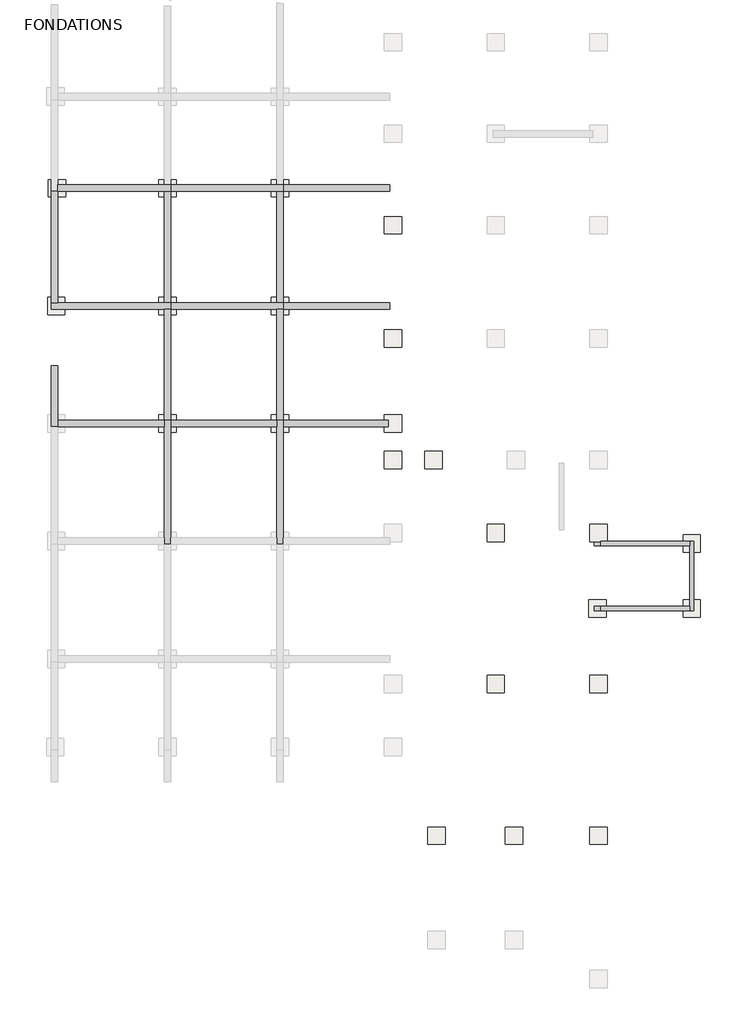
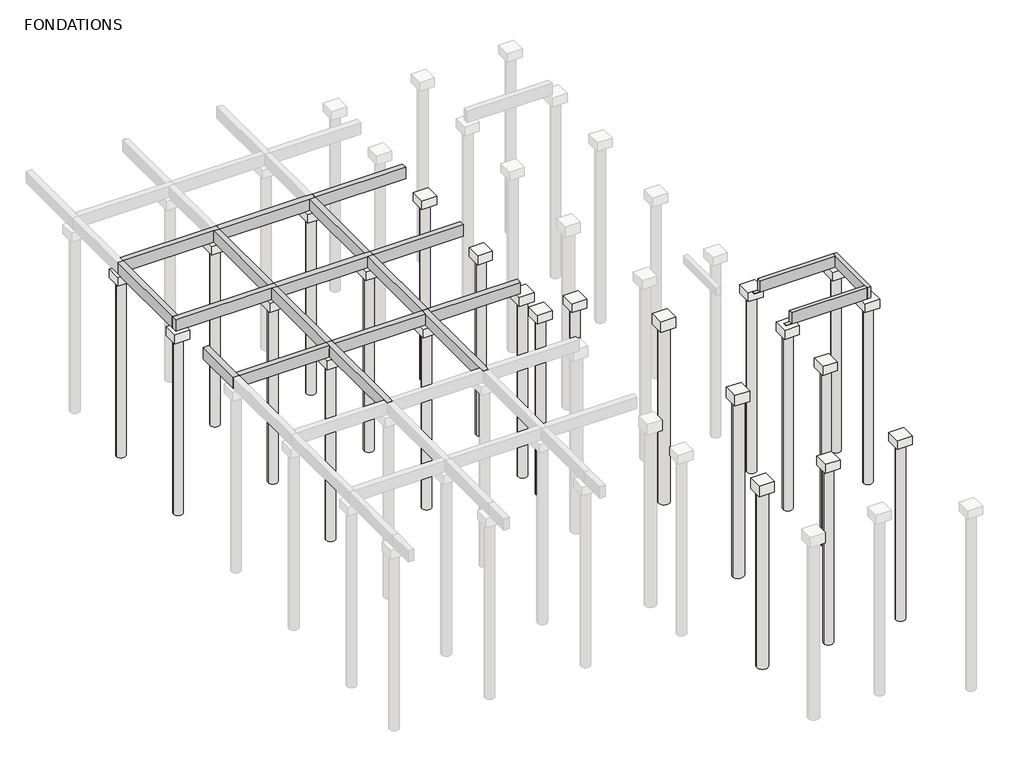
# One storey, part 2 of 3: 46 slabs, 20 beams.
"""IFC4 building model written with IfcOpenShell, lengths in millimetres."""

from ifc_helpers import new_model, si_unit, point, frame, frame_2d, origin, place, context, project, spatial, polyline, circle_curve, trimmed, segment, composite_curve, outline, extrude, faceted_brep, element, save

model = new_model("IFC4")

# Units and contexts
model_context = context("Model", 3, world=origin())
ifc_project = project(units=[si_unit("LENGTHUNIT", "METRE", prefix="MILLI")], contexts=[model_context])

# Site, building, storey
site = spatial("IfcSite", under=ifc_project)
building = spatial("IfcBuilding", under=site)
storey = spatial("IfcBuildingStorey", under=building, Name="FONDATIONS", Elevation=-650.0)

# Beams
placement = place(None, origin())
element("IfcBeam", 1, ObjectType="Longrine : 20x65h", at=placement, inside=storey, context=model_context, shape_type="Brep", body=[
    faceted_brep([(44059.0482776, 43362.7519336, -670.0), (44059.0482776, 43362.7519336, -20.0), (44059.0482776, 43363.0600761, -20.0), (44059.0482776, 43562.7519336, -20.0), (44059.0482776, 46342.7522291, -20.0), (44059.0482776, 46542.4600761, -20.0), (44059.0482776, 46542.7522291, -20.0), (44059.0482776, 46542.7522291, -670.0), (44059.0482776, 46342.7522291, -670.0), (44059.0482776, 43562.7519336, -670.0), (44259.0482776, 43362.7519336, -670.0), (44259.0482776, 46542.7522291, -670.0), (44259.0482776, 43362.7519336, -20.0), (44259.0482776, 46542.7522291, -20.0), (44259.0482776, 46542.4600761, -20.0), (44259.0482776, 43363.0600761, -20.0)], [[[0, 1, 2, 3, 4, 5, 6, 7, 8, 9]], [[10, 0, 9, 8, 7, 11]], [[12, 10, 11, 13, 14, 15]], [[1, 12, 15, 14, 13, 6, 5, 4, 3, 2]], [[7, 6, 13, 11]], [[1, 0, 10, 12]]]),
])
element("IfcBeam", 2, ObjectType="Longrine : 20x65h", at=placement, inside=storey, context=model_context, shape_type="Brep", body=[
    faceted_brep([(39989.0482781, 46342.7522291, -20.0), (39989.0482781, 46342.7522291, -220.0), (39989.0482781, 46342.7522291, -650.0), (39689.0482781, 46342.7522291, -650.0), (39689.0482781, 46342.7522291, -670.0), (44059.0482776, 46342.7522291, -670.0), (44059.0482776, 46342.7522291, -220.0), (44059.0482776, 46342.7522291, -20.0), (39689.0482781, 46529.8020813, -670.0), (40289.0482781, 46529.8020813, -670.0), (40289.0482781, 46542.7522291, -670.0), (44059.0482776, 46542.7522291, -670.0), (40289.0482781, 46542.7522291, -650.0), (39989.0482781, 46542.7522291, -650.0), (39989.0482781, 46542.7522291, -20.0), (44059.0482776, 46542.7522291, -20.0), (39989.0482781, 46529.8020813, -650.0), (39689.0482781, 46529.8020813, -650.0), (40289.0482781, 46529.8020813, -650.0)], [[[0, 1, 2, 3, 4, 5, 6, 7]], [[8, 9, 10, 11, 5, 4]], [[10, 12, 13, 14, 15, 11]], [[14, 0, 7, 15]], [[2, 1, 0, 14, 13, 16]], [[3, 2, 16, 17]], [[12, 18, 16, 13]], [[16, 18, 9, 8, 17]], [[18, 12, 10, 9]], [[4, 3, 17, 8]], [[7, 6, 5, 11, 15]]]),
])
element("IfcBeam", 3, ObjectType="Longrine : 20x65h", at=placement, inside=storey, context=model_context, shape_type="Brep", body=[
    faceted_brep([(39989.0482781, 43362.7519336, -20.0), (39989.0482781, 43362.7519336, -650.0), (39689.0482781, 43362.7519336, -650.0), (39689.0482781, 43362.7519336, -670.0), (44059.0482776, 43362.7519336, -670.0), (44059.0482776, 43362.7519336, -20.0), (39689.0482781, 43562.7519336, -670.0), (44059.0482776, 43562.7519336, -670.0), (39989.0482781, 43562.7519336, -650.0), (39989.0482781, 43562.7519336, -220.0), (39989.0482781, 43562.7519336, -20.0), (44059.0482776, 43562.7519336, -20.0), (44059.0482776, 43562.7519336, -220.0), (39689.0482781, 43562.7519336, -650.0)], [[[0, 1, 2, 3, 4, 5]], [[3, 6, 7, 4]], [[8, 9, 10, 11, 12, 7, 6, 13]], [[10, 0, 5, 11]], [[8, 1, 0, 10, 9]], [[1, 8, 13, 2]], [[6, 3, 2, 13]], [[5, 4, 7, 12, 11]]]),
])
element("IfcBeam", 4, ObjectType="Longrine : 30x65h", at=placement, inside=storey, context=model_context, shape_type="Brep", body=[
    faceted_brep([(14769.048278, 54609.7486113, 0.0), (14769.048278, 54609.7486113, -650.0), (14769.048278, 51799.8020807, -650.0), (14769.048278, 51799.8020807, 0.0), (15069.048278, 54609.7486113, -650.0), (15069.048278, 52099.8020807, -650.0), (15069.048278, 51799.8020807, -650.0), (15069.048278, 54609.7486113, 0.0), (15069.048278, 52099.8020807, 0.0), (15069.048278, 51799.8020807, 0.0)], [[[0, 1, 2, 3]], [[1, 4, 5, 6, 2]], [[4, 7, 8, 9, 6, 5]], [[7, 0, 3, 9, 8]], [[0, 7, 4, 1]], [[3, 2, 6, 9]]]),
])
element("IfcBeam", 5, ObjectType="Longrine : 30x65h", at=placement, inside=storey, context=model_context, shape_type="Brep", body=[
    faceted_brep([(19942.0406356, 46399.8020807, -650.0), (19942.0406356, 46399.8020807, 0.0), (19942.0406356, 46699.8020807, 0.0), (19942.0406356, 51799.8020807, 0.0), (19942.0406356, 52099.8020807, 0.0), (19942.0406356, 52099.8020807, -650.0), (19942.0406356, 51799.8020807, -650.0), (19942.0406356, 51797.4091723, -650.0), (19942.0406356, 46699.8020807, -650.0), (20242.0406356, 46399.8020807, -650.0), (20241.5466704, 52099.8020807, -650.0), (20242.0406356, 52099.8020807, -650.0), (20242.0406356, 51799.8020807, -650.0), (20242.0406356, 46699.8020807, -650.0), (20242.0406356, 46399.8020807, 0.0), (20242.0406356, 52099.8020807, 0.0), (20242.0406356, 51799.8020807, 0.0), (20242.0406356, 46699.8020807, 0.0), (20241.5466704, 52099.8020807, 0.0)], [[[0, 1, 2, 3, 4, 5, 6, 7, 8]], [[9, 0, 8, 7, 6, 5, 10, 11, 12, 13]], [[14, 9, 13, 12, 11, 15, 16, 17]], [[1, 14, 17, 16, 15, 18, 4, 3, 2]], [[5, 4, 18, 15, 11, 10]], [[1, 0, 9, 14]]]),
])
element("IfcBeam", 6, ObjectType="Longrine : 30x65h", at=placement, inside=storey, context=model_context, shape_type="Brep", body=[
    faceted_brep([(25116.0406356, 46399.8020807, -650.0), (25116.0406356, 46399.8020807, 0.0), (25116.0406356, 46699.8020807, 0.0), (25116.0406356, 51799.8020807, 0.0), (25116.0406356, 52099.8020807, 0.0), (25116.0406356, 52099.8020807, -650.0), (25116.0406356, 51799.8020807, -650.0), (25116.0406356, 46699.8020807, -650.0), (25416.0406356, 46399.8020807, -650.0), (25416.0406356, 52099.8020807, -650.0), (25416.0406356, 51799.8020807, -650.0), (25416.0406356, 46699.8020807, -650.0), (25416.0406356, 46399.8020807, 0.0), (25416.0406356, 52099.8020807, 0.0), (25416.0406356, 51799.8020807, 0.0), (25416.0406356, 46699.8020807, 0.0)], [[[0, 1, 2, 3, 4, 5, 6, 7]], [[8, 0, 7, 6, 5, 9, 10, 11]], [[12, 8, 11, 10, 9, 13, 14, 15]], [[1, 12, 15, 14, 13, 4, 3, 2]], [[5, 4, 13, 9]], [[1, 0, 8, 12]]]),
])
element("IfcBeam", 7, ObjectType="Longrine : 30x65h", at=placement, inside=storey, context=model_context, shape_type="Brep", body=[
    faceted_brep([(20241.5466704, 62602.7522291, -650.0), (20241.5466704, 62602.7522291, 0.0), (19941.5466704, 62602.7522291, 0.0), (15069.048278, 62602.7522291, 0.0), (15069.048278, 62602.7522291, -200.0), (15069.048278, 62602.7522291, -650.0), (19941.5466704, 62602.7522291, -650.0), (20241.5466704, 62902.7522291, -650.0), (15069.048278, 62902.7522291, -650.0), (19942.0406356, 62902.7522291, -650.0), (20241.5466704, 62902.7522291, 0.0), (20241.5466704, 62902.7522291, -200.0), (15069.048278, 62902.7522291, -200.0), (15069.048278, 62902.7522291, 0.0), (19942.0406356, 62902.7522291, 0.0)], [[[0, 1, 2, 3, 4, 5, 6]], [[7, 0, 6, 5, 8, 9]], [[10, 11, 7, 9, 8, 12, 13, 14]], [[1, 10, 14, 13, 3, 2]], [[1, 0, 7, 11, 10]], [[5, 4, 3, 13, 12, 8]]]),
])
element("IfcBeam", 8, ObjectType="Longrine : 30x65h", at=placement, inside=storey, context=model_context, shape_type="Brep", body=[
    faceted_brep([(25416.0406356, 62602.7522291, -650.0), (25416.0406356, 62602.7522291, 0.0), (25116.0406356, 62602.7522291, 0.0), (20241.5466704, 62602.7522291, 0.0), (20241.5466704, 62602.7522291, -200.0), (20241.5466704, 62602.7522291, -650.0), (25116.0406356, 62602.7522291, -650.0), (25416.0406356, 62902.7522291, -650.0), (20241.5466704, 62902.7522291, -650.0), (20242.0406356, 62902.7522291, -650.0), (25116.0406356, 62902.7522291, -650.0), (25416.0406356, 62902.7522291, 0.0), (20241.5466704, 62902.7522291, -200.0), (20241.5466704, 62902.7522291, 0.0), (25116.0406356, 62902.7522291, 0.0)], [[[0, 1, 2, 3, 4, 5, 6]], [[7, 0, 6, 5, 8, 9, 10]], [[11, 7, 10, 9, 8, 12, 13, 14]], [[1, 11, 14, 13, 3, 2]], [[5, 4, 3, 13, 12, 8]], [[1, 0, 7, 11]]]),
])
element("IfcBeam", 9, ObjectType="Longrine : 30x65h", at=placement, inside=storey, context=model_context, shape_type="Brep", body=[
    faceted_brep([(30289.0482779, 62602.7522291, -650.0), (30289.0482779, 62602.7522291, -200.0), (30289.0482779, 62602.7522291, 0.0), (25416.0406356, 62602.7522291, 0.0), (25416.0406356, 62602.7522291, -200.0), (25416.0406356, 62602.7522291, -650.0), (30289.0482779, 62902.7522291, -650.0), (25416.0406356, 62902.7522291, -650.0), (30289.0482779, 62902.7522291, 0.0), (30289.0482779, 62902.7522291, -200.0), (25416.0406356, 62902.7522291, -200.0), (25416.0406356, 62902.7522291, 0.0)], [[[0, 1, 2, 3, 4, 5]], [[6, 0, 5, 7]], [[8, 9, 6, 7, 10, 11]], [[2, 8, 11, 3]], [[2, 1, 0, 6, 9, 8]], [[5, 4, 3, 11, 10, 7]]]),
])
element("IfcBeam", 10, ObjectType="Longrine : 30x65h", at=placement, inside=storey, context=model_context, shape_type="Brep", body=[
    faceted_brep([(20241.5466704, 57199.8020807, -650.0), (20241.5466704, 57199.8020807, 0.0), (19941.5466704, 57199.8020807, 0.0), (15069.048278, 57199.8020807, 0.0), (14769.048278, 57199.8020807, 0.0), (14769.048278, 57199.8020807, -650.0), (15069.048278, 57199.8020807, -650.0), (19941.5466704, 57199.8020807, -650.0), (20241.5466704, 57499.8020807, -650.0), (14769.048278, 57499.8020807, -650.0), (15069.048278, 57499.8020807, -650.0), (19941.5466704, 57499.8020807, -650.0), (20241.5466704, 57499.8020807, 0.0), (14769.048278, 57499.8020807, 0.0), (15069.048278, 57499.8020807, 0.0), (19941.5466704, 57499.8020807, 0.0)], [[[0, 1, 2, 3, 4, 5, 6, 7]], [[8, 0, 7, 6, 5, 9, 10, 11]], [[12, 8, 11, 10, 9, 13, 14, 15]], [[1, 12, 15, 14, 13, 4, 3, 2]], [[1, 0, 8, 12]], [[5, 4, 13, 9]]]),
])
element("IfcBeam", 11, ObjectType="Longrine : 30x65h", at=placement, inside=storey, context=model_context, shape_type="Brep", body=[
    faceted_brep([(25416.0406356, 57199.8020807, -650.0), (25416.0406356, 57199.8020807, 0.0), (25116.0406356, 57199.8020807, 0.0), (20241.5466704, 57199.8020807, 0.0), (20241.5466704, 57199.8020807, -200.0), (20241.5466704, 57199.8020807, -650.0), (25116.0406356, 57199.8020807, -650.0), (25416.0406356, 57499.8020807, -650.0), (20241.5466704, 57499.8020807, -650.0), (25116.0406356, 57499.8020807, -650.0), (25416.0406356, 57499.8020807, 0.0), (20241.5466704, 57499.8020807, -200.0), (20241.5466704, 57499.8020807, 0.0), (25116.0406356, 57499.8020807, 0.0)], [[[0, 1, 2, 3, 4, 5, 6]], [[7, 0, 6, 5, 8, 9]], [[10, 7, 9, 8, 11, 12, 13]], [[1, 10, 13, 12, 3, 2]], [[5, 4, 3, 12, 11, 8]], [[1, 0, 7, 10]]]),
])
element("IfcBeam", 12, ObjectType="Longrine : 30x65h", at=placement, inside=storey, context=model_context, shape_type="Brep", body=[
    faceted_brep([(30289.0482779, 57199.8020807, -650.0), (30289.0482779, 57199.8020807, -200.0), (30289.0482779, 57199.8020807, 0.0), (25416.0406356, 57199.8020807, 0.0), (25416.0406356, 57199.8020807, -200.0), (25416.0406356, 57199.8020807, -650.0), (30289.0482779, 57499.8020807, -650.0), (25416.0406356, 57499.8020807, -650.0), (30289.0482779, 57499.8020807, 0.0), (30289.0482779, 57499.8020807, -200.0), (25416.0406356, 57499.8020807, -200.0), (25416.0406356, 57499.8020807, 0.0)], [[[0, 1, 2, 3, 4, 5]], [[6, 0, 5, 7]], [[8, 9, 6, 7, 10, 11]], [[2, 8, 11, 3]], [[2, 1, 0, 6, 9, 8]], [[5, 4, 3, 11, 10, 7]]]),
])
element("IfcBeam", 13, ObjectType="Longrine : 30x65h", at=placement, inside=storey, context=model_context, shape_type="Brep", body=[
    faceted_brep([(15069.048278, 51799.8020807, 0.0), (15069.048278, 51799.8020807, -200.0), (15069.048278, 51799.8020807, -650.0), (19941.5466704, 51799.8020807, -650.0), (19942.0406356, 51799.8020807, -650.0), (19942.0406356, 51799.8020807, -200.0), (19942.0406356, 51799.8020807, 0.0), (15069.048278, 52099.8020807, -650.0), (19941.5466704, 52099.8020807, -650.0), (19942.0406356, 52099.8020807, -650.0), (15069.048278, 52099.8020807, -200.0), (15069.048278, 52099.8020807, 0.0), (19941.5466704, 52099.8020807, 0.0), (19942.0406356, 52099.8020807, 0.0)], [[[0, 1, 2, 3, 4, 5, 6]], [[2, 7, 8, 9, 4, 3]], [[7, 10, 11, 12, 13, 9, 8]], [[11, 0, 6, 13, 12]], [[2, 1, 0, 11, 10, 7]], [[6, 5, 4, 9, 13]]]),
])
element("IfcBeam", 14, ObjectType="Longrine : 30x65h", at=placement, inside=storey, context=model_context, shape_type="Brep", body=[
    faceted_brep([(30239.0482779, 51799.8020807, -650.0), (30239.0482779, 51799.8020807, -200.0), (30239.0482779, 51799.8020807, 0.0), (25416.0406356, 51799.8020807, 0.0), (25416.0406356, 51799.8020807, -200.0), (25416.0406356, 51799.8020807, -650.0), (30239.0482779, 52099.8020807, -650.0), (25416.0406356, 52099.8020807, -650.0), (30239.0482779, 52099.8020807, 0.0), (30239.0482779, 52099.8020807, -200.0), (25416.0406356, 52099.8020807, -200.0), (25416.0406356, 52099.8020807, 0.0)], [[[0, 1, 2, 3, 4, 5]], [[6, 0, 5, 7]], [[8, 9, 6, 7, 10, 11]], [[2, 8, 11, 3]], [[2, 1, 0, 6, 9, 8]], [[5, 4, 3, 11, 10, 7]]]),
])
element("IfcBeam", 15, ObjectType="Longrine : 30x65h", at=placement, inside=storey, context=model_context, shape_type="Brep", body=[
    faceted_brep([(19941.5466704, 62602.7522291, 0.0), (19941.5466704, 62602.7522291, -200.0), (19941.5466704, 62602.7522291, -650.0), (19941.5466704, 57499.8020807, -650.0), (19941.5466704, 57499.8020807, -200.0), (19941.5466704, 57499.8020807, 0.0), (20241.5466704, 62602.7522291, -650.0), (20241.5466704, 57499.8020807, -650.0), (20241.5466704, 62602.7522291, -200.0), (20241.5466704, 62602.7522291, 0.0), (20241.5466704, 57499.8020807, 0.0), (20241.5466704, 57499.8020807, -200.0)], [[[0, 1, 2, 3, 4, 5]], [[2, 6, 7, 3]], [[6, 8, 9, 10, 11, 7]], [[9, 0, 5, 10]], [[2, 1, 0, 9, 8, 6]], [[5, 4, 3, 7, 11, 10]]]),
])
element("IfcBeam", 16, ObjectType="Longrine : 30x65h", at=placement, inside=storey, context=model_context, shape_type="Brep", body=[
    faceted_brep([(19941.5466704, 51799.8020807, -650.0), (19941.5466704, 51797.4091723, -650.0), (19941.5466704, 51797.4091723, -200.0), (19941.5466704, 51799.8020807, -200.0), (19942.0406356, 51799.8020807, -650.0), (19942.0406356, 51797.4091723, -650.0), (19942.0406356, 51797.4091723, -200.0), (19942.0406356, 51799.8020807, -200.0)], [[[0, 1, 2, 3]], [[0, 4, 5, 1]], [[1, 5, 6, 2]], [[5, 4, 7, 6]], [[4, 0, 3, 7]], [[3, 2, 6, 7]]]),
    faceted_brep([(20241.5466704, 57199.8020807, -650.0), (20241.5466704, 57199.8020807, -200.0), (20241.5466704, 57199.8020807, 0.0), (20241.5466704, 52099.8020807, 0.0), (20241.5466704, 52099.8020807, -200.0), (20241.5466704, 52099.8020807, -650.0), (19941.5466704, 57199.8020807, -650.0), (19941.5466704, 57199.8020807, -200.0), (19941.5466704, 57199.8020807, 0.0), (19942.0406356, 52099.8020807, 0.0), (19941.5466704, 52099.8020807, 0.0), (19941.5466704, 52099.8020807, -200.0), (19941.5466704, 52099.8020807, -650.0), (19942.0406356, 52099.8020807, -650.0)], [[[0, 1, 2, 3, 4, 5]], [[6, 7, 8, 2, 1, 0]], [[5, 4, 3, 9, 10, 11, 12, 13]], [[8, 7, 6, 12, 11, 10]], [[6, 0, 5, 13, 12]], [[2, 8, 10, 9, 3]]]),
])
element("IfcBeam", 17, ObjectType="Longrine : 30x65h", at=placement, inside=storey, context=model_context, shape_type="Brep", body=[
    faceted_brep([(25116.0406356, 62602.7522291, 0.0), (25116.0406356, 62602.7522291, -200.0), (25116.0406356, 62602.7522291, -650.0), (25116.0406356, 57499.8020807, -650.0), (25116.0406356, 57499.8020807, -200.0), (25116.0406356, 57499.8020807, 0.0), (25416.0406356, 62602.7522291, -650.0), (25416.0406356, 57499.8020807, -650.0), (25416.0406356, 62602.7522291, -200.0), (25416.0406356, 62602.7522291, 0.0), (25416.0406356, 57499.8020807, 0.0), (25416.0406356, 57499.8020807, -200.0)], [[[0, 1, 2, 3, 4, 5]], [[2, 6, 7, 3]], [[6, 8, 9, 10, 11, 7]], [[9, 0, 5, 10]], [[2, 1, 0, 9, 8, 6]], [[5, 4, 3, 7, 11, 10]]]),
])
element("IfcBeam", 18, ObjectType="Longrine : 30x65h", at=placement, inside=storey, context=model_context, shape_type="Brep", body=[
    faceted_brep([(25116.0406356, 57199.8020807, 0.0), (25116.0406356, 57199.8020807, -200.0), (25116.0406356, 57199.8020807, -650.0), (25116.0406356, 52099.8020807, -650.0), (25116.0406356, 52099.8020807, -200.0), (25116.0406356, 52099.8020807, 0.0), (25416.0406356, 57199.8020807, -650.0), (25416.0406356, 52099.8020807, -650.0), (25416.0406356, 57199.8020807, -200.0), (25416.0406356, 57199.8020807, 0.0), (25416.0406356, 52099.8020807, 0.0), (25416.0406356, 52099.8020807, -200.0)], [[[0, 1, 2, 3, 4, 5]], [[2, 6, 7, 3]], [[6, 8, 9, 10, 11, 7]], [[9, 0, 5, 10]], [[6, 2, 1, 0, 9, 8]], [[5, 4, 3, 7, 11, 10]]]),
])
element("IfcBeam", 19, ObjectType="Longrine : 30x65h", at=placement, inside=storey, context=model_context, shape_type="Brep", body=[
    faceted_brep([(15069.048278, 62602.7522291, -650.0), (15069.048278, 62602.7522291, -200.0), (15069.048278, 62602.7522291, 0.0), (15069.048278, 57499.8020807, 0.0), (15069.048278, 57499.8020807, -200.0), (15069.048278, 57499.8020807, -650.0), (14769.048278, 62602.7522291, -650.0), (14769.048278, 57499.8020807, -650.0), (14769.048278, 62602.7522291, 0.0), (14769.048278, 57499.8020807, 0.0)], [[[0, 1, 2, 3, 4, 5]], [[6, 0, 5, 7]], [[8, 6, 7, 9]], [[2, 8, 9, 3]], [[2, 1, 0, 6, 8]], [[5, 4, 3, 9, 7]]]),
])
element("IfcBeam", 20, ObjectType="Longrine : 30x65h", at=placement, inside=storey, context=model_context, shape_type="Brep", body=[
    faceted_brep([(20242.0406356, 51799.8020807, 0.0), (20242.0406356, 51799.8020807, -200.0), (20242.0406356, 51799.8020807, -650.0), (25116.0406356, 51799.8020807, -650.0), (25116.0406356, 51799.8020807, -200.0), (25116.0406356, 51799.8020807, 0.0), (20242.0406356, 52099.8020807, 0.0), (20242.0406356, 52099.8020807, -650.0), (25116.0406356, 52099.8020807, -650.0), (25116.0406356, 52099.8020807, 0.0), (25116.0406356, 52099.8020807, -200.0)], [[[0, 1, 2, 3, 4, 5]], [[2, 1, 0, 6, 7]], [[2, 7, 8, 3]], [[7, 6, 9, 10, 8]], [[6, 0, 5, 9]], [[5, 4, 3, 8, 10, 9]]]),
])

# Slabs
element("IfcSlab", 21, ObjectType="M_Pieu-Béton : Diamètre de 50 cm", at=placement, inside=storey, context=model_context, shape_type="SweptSolid", body=[
    extrude(outline(composite_curve([segment(trimmed(circle_curve(frame_2d((30439.0482779, 61049.8020814)), 250.0), [point((30189.0482779, 61049.8020814))], [point((30689.0482779, 61049.8020814))], False, "CARTESIAN"), True, "CONTINUOUS"), segment(trimmed(circle_curve(frame_2d((30439.0482779, 61049.8020814)), 250.0), [point((30689.0482779, 61049.8020814))], [point((30189.0482779, 61049.8020814))], False, "CARTESIAN"), True, "CONTINUOUS")], self_intersect=False)), frame((0.0, 0.0, -11150.0), z_axis=(0.0, 0.0, 1.0), x_axis=(1.0, 0.0, 0.0)), (0.0, 0.0, 1.0), 10000.0),
])
element("IfcSlab", 22, ObjectType="M_Pieu-Béton : Diamètre de 50 cm", at=placement, inside=storey, context=model_context, shape_type="SweptSolid", body=[
    extrude(outline(composite_curve([segment(trimmed(circle_curve(frame_2d((30439.0482779, 55849.8020814)), 250.0), [point((30189.0482779, 55849.8020814))], [point((30689.0482779, 55849.8020814))], False, "CARTESIAN"), True, "CONTINUOUS"), segment(trimmed(circle_curve(frame_2d((30439.0482779, 55849.8020814)), 250.0), [point((30689.0482779, 55849.8020814))], [point((30189.0482779, 55849.8020814))], False, "CARTESIAN"), True, "CONTINUOUS")], self_intersect=False)), frame((0.0, 0.0, -11150.0), z_axis=(0.0, 0.0, 1.0), x_axis=(1.0, 0.0, 0.0)), (0.0, 0.0, 1.0), 10000.0),
])
element("IfcSlab", 23, ObjectType="M_Pieu-Béton : Diamètre de 60 cm", at=placement, inside=storey, context=model_context, shape_type="SweptSolid", body=[
    extrude(outline(composite_curve([segment(trimmed(circle_curve(frame_2d((35164.048278, 46929.8020813)), 300.0), [point((34864.048278, 46929.8020813))], [point((35464.048278, 46929.8020813))], False, "CARTESIAN"), True, "CONTINUOUS"), segment(trimmed(circle_curve(frame_2d((35164.048278, 46929.8020813)), 300.0), [point((35464.048278, 46929.8020813))], [point((34864.048278, 46929.8020813))], False, "CARTESIAN"), True, "CONTINUOUS")], self_intersect=False)), frame((0.0, 0.0, -11250.0), z_axis=(0.0, 0.0, 1.0), x_axis=(1.0, 0.0, 0.0)), (0.0, 0.0, 1.0), 10000.0),
])
element("IfcSlab", 24, ObjectType="M_Pieu-Béton : Diamètre de 50 cm", at=placement, inside=storey, context=model_context, shape_type="SweptSolid", body=[
    extrude(outline(composite_curve([segment(trimmed(circle_curve(frame_2d((39889.0482781, 46929.8020813)), 250.0), [point((39639.0482781, 46929.8020813))], [point((40139.0482781, 46929.8020813))], False, "CARTESIAN"), True, "CONTINUOUS"), segment(trimmed(circle_curve(frame_2d((39889.0482781, 46929.8020813)), 250.0), [point((40139.0482781, 46929.8020813))], [point((39639.0482781, 46929.8020813))], False, "CARTESIAN"), True, "CONTINUOUS")], self_intersect=False)), frame((0.0, 0.0, -11150.0), z_axis=(0.0, 0.0, 1.0), x_axis=(1.0, 0.0, 0.0)), (0.0, 0.0, 1.0), 10000.0),
])
element("IfcSlab", 25, ObjectType="M_Pieu-Béton : Diamètre de 50 cm", at=placement, inside=storey, context=model_context, shape_type="SweptSolid", body=[
    extrude(outline(composite_curve([segment(trimmed(circle_curve(frame_2d((39889.0482781, 39999.8020813)), 250.0), [point((39639.0482781, 39999.8020813))], [point((40139.0482781, 39999.8020813))], False, "CARTESIAN"), True, "CONTINUOUS"), segment(trimmed(circle_curve(frame_2d((39889.0482781, 39999.8020813)), 250.0), [point((40139.0482781, 39999.8020813))], [point((39639.0482781, 39999.8020813))], False, "CARTESIAN"), True, "CONTINUOUS")], self_intersect=False)), frame((0.0, 0.0, -11150.0), z_axis=(0.0, 0.0, 1.0), x_axis=(1.0, 0.0, 0.0)), (0.0, 0.0, 1.0), 10000.0),
])
element("IfcSlab", 26, ObjectType="M_Pieu-Béton : Diamètre de 50 cm", at=placement, inside=storey, context=model_context, shape_type="SweptSolid", body=[
    extrude(outline(composite_curve([segment(trimmed(circle_curve(frame_2d((20092.0406356, 51949.8020807)), 250.0), [point((19842.0406356, 51949.8020807))], [point((20342.0406356, 51949.8020807))], False, "CARTESIAN"), True, "CONTINUOUS"), segment(trimmed(circle_curve(frame_2d((20092.0406356, 51949.8020807)), 250.0), [point((20342.0406356, 51949.8020807))], [point((19842.0406356, 51949.8020807))], False, "CARTESIAN"), True, "CONTINUOUS")], self_intersect=False)), frame((0.0, 0.0, -11150.0), z_axis=(0.0, 0.0, 1.0), x_axis=(1.0, 0.0, 0.0)), (0.0, 0.0, 1.0), 10000.0),
])
element("IfcSlab", 27, ObjectType="M_Pieu-Béton : Diamètre de 50 cm", at=placement, inside=storey, context=model_context, shape_type="SweptSolid", body=[
    extrude(outline(composite_curve([segment(trimmed(circle_curve(frame_2d((25266.0406356, 51949.8020807)), 250.0), [point((25016.0406356, 51949.8020807))], [point((25516.0406356, 51949.8020807))], False, "CARTESIAN"), True, "CONTINUOUS"), segment(trimmed(circle_curve(frame_2d((25266.0406356, 51949.8020807)), 250.0), [point((25516.0406356, 51949.8020807))], [point((25016.0406356, 51949.8020807))], False, "CARTESIAN"), True, "CONTINUOUS")], self_intersect=False)), frame((0.0, 0.0, -11150.0), z_axis=(0.0, 0.0, 1.0), x_axis=(1.0, 0.0, 0.0)), (0.0, 0.0, 1.0), 10000.0),
])
element("IfcSlab", 28, ObjectType="M_Pieu-Béton : Diamètre de 50 cm", at=placement, inside=storey, context=model_context, shape_type="SweptSolid", body=[
    extrude(outline(composite_curve([segment(trimmed(circle_curve(frame_2d((20092.0406356, 57349.8020807)), 250.0), [point((19842.0406356, 57349.8020807))], [point((20342.0406356, 57349.8020807))], False, "CARTESIAN"), True, "CONTINUOUS"), segment(trimmed(circle_curve(frame_2d((20092.0406356, 57349.8020807)), 250.0), [point((20342.0406356, 57349.8020807))], [point((19842.0406356, 57349.8020807))], False, "CARTESIAN"), True, "CONTINUOUS")], self_intersect=False)), frame((0.0, 0.0, -11150.0), z_axis=(0.0, 0.0, 1.0), x_axis=(1.0, 0.0, 0.0)), (0.0, 0.0, 1.0), 10000.0),
])
element("IfcSlab", 29, ObjectType="M_Pieu-Béton : Diamètre de 50 cm", at=placement, inside=storey, context=model_context, shape_type="SweptSolid", body=[
    extrude(outline(composite_curve([segment(trimmed(circle_curve(frame_2d((25266.0406356, 57349.8020807)), 250.0), [point((25016.0406356, 57349.8020807))], [point((25516.0406356, 57349.8020807))], False, "CARTESIAN"), True, "CONTINUOUS"), segment(trimmed(circle_curve(frame_2d((25266.0406356, 57349.8020807)), 250.0), [point((25516.0406356, 57349.8020807))], [point((25016.0406356, 57349.8020807))], False, "CARTESIAN"), True, "CONTINUOUS")], self_intersect=False)), frame((0.0, 0.0, -11150.0), z_axis=(0.0, 0.0, 1.0), x_axis=(1.0, 0.0, 0.0)), (0.0, 0.0, 1.0), 10000.0),
])
element("IfcSlab", 30, ObjectType="M_Pieu-Béton : Diamètre de 50 cm", at=placement, inside=storey, context=model_context, shape_type="SweptSolid", body=[
    extrude(outline(composite_curve([segment(trimmed(circle_curve(frame_2d((44159.0482776, 43462.7519336)), 250.0), [point((43909.0482776, 43462.7519336))], [point((44409.0482776, 43462.7519336))], False, "CARTESIAN"), True, "CONTINUOUS"), segment(trimmed(circle_curve(frame_2d((44159.0482776, 43462.7519336)), 250.0), [point((44409.0482776, 43462.7519336))], [point((43909.0482776, 43462.7519336))], False, "CARTESIAN"), True, "CONTINUOUS")], self_intersect=False)), frame((0.0, 0.0, -11170.0), z_axis=(0.0, 0.0, 1.0), x_axis=(1.0, 0.0, 0.0)), (0.0, 0.0, 1.0), 10000.0),
])
element("IfcSlab", 31, ObjectType="M_Pieu-Béton : Diamètre de 50 cm", at=placement, inside=storey, context=model_context, shape_type="SweptSolid", body=[
    extrude(outline(composite_curve([segment(trimmed(circle_curve(frame_2d((32299.048278, 50279.8020815)), 250.0), [point((32049.048278, 50279.8020815))], [point((32549.048278, 50279.8020815))], False, "CARTESIAN"), True, "CONTINUOUS"), segment(trimmed(circle_curve(frame_2d((32299.048278, 50279.8020815)), 250.0), [point((32549.048278, 50279.8020815))], [point((32049.048278, 50279.8020815))], False, "CARTESIAN"), True, "CONTINUOUS")], self_intersect=False)), frame((0.0, 0.0, -11150.0), z_axis=(0.0, 0.0, 1.0), x_axis=(1.0, 0.0, 0.0)), (0.0, 0.0, 1.0), 10000.0),
])
element("IfcSlab", 32, ObjectType="M_Pieu-Béton : Diamètre de 50 cm", at=placement, inside=storey, context=model_context, shape_type="SweptSolid", body=[
    extrude(outline(composite_curve([segment(trimmed(circle_curve(frame_2d((30439.0482779, 50279.8020815)), 250.0), [point((30189.0482779, 50279.8020815))], [point((30689.0482779, 50279.8020815))], False, "CARTESIAN"), True, "CONTINUOUS"), segment(trimmed(circle_curve(frame_2d((30439.0482779, 50279.8020815)), 250.0), [point((30689.0482779, 50279.8020815))], [point((30189.0482779, 50279.8020815))], False, "CARTESIAN"), True, "CONTINUOUS")], self_intersect=False)), frame((0.0, 0.0, -11150.0), z_axis=(0.0, 0.0, 1.0), x_axis=(1.0, 0.0, 0.0)), (0.0, 0.0, 1.0), 10000.0),
])
element("IfcSlab", 33, ObjectType="M_Pieu-Béton : Diamètre de 50 cm", at=placement, inside=storey, context=model_context, shape_type="SweptSolid", body=[
    extrude(outline(composite_curve([segment(trimmed(circle_curve(frame_2d((30439.0482779, 51949.8020807)), 250.0), [point((30189.0482779, 51949.8020807))], [point((30689.0482779, 51949.8020807))], False, "CARTESIAN"), True, "CONTINUOUS"), segment(trimmed(circle_curve(frame_2d((30439.0482779, 51949.8020807)), 250.0), [point((30689.0482779, 51949.8020807))], [point((30189.0482779, 51949.8020807))], False, "CARTESIAN"), True, "CONTINUOUS")], self_intersect=False)), frame((0.0, 0.0, -11150.0), z_axis=(0.0, 0.0, 1.0), x_axis=(1.0, 0.0, 0.0)), (0.0, 0.0, 1.0), 10000.0),
])
element("IfcSlab", 34, ObjectType="M_Pieu-Béton : Diamètre de 50 cm", at=placement, inside=storey, context=model_context, shape_type="SweptSolid", body=[
    extrude(outline(composite_curve([segment(trimmed(circle_curve(frame_2d((36004.0482778, 33029.8020807)), 250.0), [point((35754.0482778, 33029.8020807))], [point((36254.0482778, 33029.8020807))], False, "CARTESIAN"), True, "CONTINUOUS"), segment(trimmed(circle_curve(frame_2d((36004.0482778, 33029.8020807)), 250.0), [point((36254.0482778, 33029.8020807))], [point((35754.0482778, 33029.8020807))], False, "CARTESIAN"), True, "CONTINUOUS")], self_intersect=False)), frame((0.0, 0.0, -11150.0), z_axis=(0.0, 0.0, 1.0), x_axis=(1.0, 0.0, 0.0)), (0.0, 0.0, 1.0), 10000.0),
])
element("IfcSlab", 35, ObjectType="M_Pieu-Béton : Diamètre de 50 cm", at=placement, inside=storey, context=model_context, shape_type="SweptSolid", body=[
    extrude(outline(composite_curve([segment(trimmed(circle_curve(frame_2d((39889.0482781, 33029.8020807)), 250.0), [point((39639.0482781, 33029.8020807))], [point((40139.0482781, 33029.8020807))], False, "CARTESIAN"), True, "CONTINUOUS"), segment(trimmed(circle_curve(frame_2d((39889.0482781, 33029.8020807)), 250.0), [point((40139.0482781, 33029.8020807))], [point((39639.0482781, 33029.8020807))], False, "CARTESIAN"), True, "CONTINUOUS")], self_intersect=False)), frame((0.0, 0.0, -11150.0), z_axis=(0.0, 0.0, 1.0), x_axis=(1.0, 0.0, 0.0)), (0.0, 0.0, 1.0), 10000.0),
])
element("IfcSlab", 36, ObjectType="M_Pieu-Béton : Diamètre de 50 cm", at=placement, inside=storey, context=model_context, shape_type="SweptSolid", body=[
    extrude(outline(composite_curve([segment(trimmed(circle_curve(frame_2d((14989.048278, 57349.8020807)), 250.0), [point((14739.048278, 57349.8020807))], [point((15239.048278, 57349.8020807))], False, "CARTESIAN"), True, "CONTINUOUS"), segment(trimmed(circle_curve(frame_2d((14989.048278, 57349.8020807)), 250.0), [point((15239.048278, 57349.8020807))], [point((14739.048278, 57349.8020807))], False, "CARTESIAN"), True, "CONTINUOUS")], self_intersect=False)), frame((0.0, 0.0, -11150.0), z_axis=(0.0, 0.0, 1.0), x_axis=(1.0, 0.0, 0.0)), (0.0, 0.0, 1.0), 10000.0),
])
element("IfcSlab", 37, ObjectType="M_Pieu-Béton : Diamètre de 50 cm", at=placement, inside=storey, context=model_context, shape_type="SweptSolid", body=[
    extrude(outline(composite_curve([segment(trimmed(circle_curve(frame_2d((15019.048278, 62749.8020807)), 250.0), [point((14769.048278, 62749.8020807))], [point((15269.048278, 62749.8020807))], False, "CARTESIAN"), True, "CONTINUOUS"), segment(trimmed(circle_curve(frame_2d((15019.048278, 62749.8020807)), 250.0), [point((15269.048278, 62749.8020807))], [point((14769.048278, 62749.8020807))], False, "CARTESIAN"), True, "CONTINUOUS")], self_intersect=False)), frame((0.0, 0.0, -11150.0), z_axis=(0.0, 0.0, 1.0), x_axis=(1.0, 0.0, 0.0)), (0.0, 0.0, 1.0), 10000.0),
])
element("IfcSlab", 38, ObjectType="M_Pieu-Béton : Diamètre de 60 cm", at=placement, inside=storey, context=model_context, shape_type="SweptSolid", body=[
    extrude(outline(composite_curve([segment(trimmed(circle_curve(frame_2d((35164.048278, 39999.8020813)), 300.0), [point((34864.048278, 39999.8020813))], [point((35464.048278, 39999.8020813))], False, "CARTESIAN"), True, "CONTINUOUS"), segment(trimmed(circle_curve(frame_2d((35164.048278, 39999.8020813)), 300.0), [point((35464.048278, 39999.8020813))], [point((34864.048278, 39999.8020813))], False, "CARTESIAN"), True, "CONTINUOUS")], self_intersect=False)), frame((0.0, 0.0, -11250.0), z_axis=(0.0, 0.0, 1.0), x_axis=(1.0, 0.0, 0.0)), (0.0, 0.0, 1.0), 10000.0),
])
element("IfcSlab", 39, ObjectType="M_Pieu-Béton : Diamètre de 60 cm", at=placement, inside=storey, context=model_context, shape_type="SweptSolid", body=[
    extrude(outline(composite_curve([segment(trimmed(circle_curve(frame_2d((32449.048278, 33029.8020807)), 300.0), [point((32149.048278, 33029.8020807))], [point((32749.048278, 33029.8020807))], False, "CARTESIAN"), True, "CONTINUOUS"), segment(trimmed(circle_curve(frame_2d((32449.048278, 33029.8020807)), 300.0), [point((32749.048278, 33029.8020807))], [point((32149.048278, 33029.8020807))], False, "CARTESIAN"), True, "CONTINUOUS")], self_intersect=False)), frame((0.0, 0.0, -11250.0), z_axis=(0.0, 0.0, 1.0), x_axis=(1.0, 0.0, 0.0)), (0.0, 0.0, 1.0), 10000.0),
])
element("IfcSlab", 40, ObjectType="M_Pieu-Béton : Diamètre de 50 cm", at=placement, inside=storey, context=model_context, shape_type="SweptSolid", body=[
    extrude(outline(composite_curve([segment(trimmed(circle_curve(frame_2d((20092.0406356, 62749.8020807)), 250.0), [point((19842.0406356, 62749.8020807))], [point((20342.0406356, 62749.8020807))], False, "CARTESIAN"), True, "CONTINUOUS"), segment(trimmed(circle_curve(frame_2d((20092.0406356, 62749.8020807)), 250.0), [point((20342.0406356, 62749.8020807))], [point((19842.0406356, 62749.8020807))], False, "CARTESIAN"), True, "CONTINUOUS")], self_intersect=False)), frame((0.0, 0.0, -11150.0), z_axis=(0.0, 0.0, 1.0), x_axis=(1.0, 0.0, 0.0)), (0.0, 0.0, 1.0), 10000.0),
])
element("IfcSlab", 41, ObjectType="M_Pieu-Béton : Diamètre de 50 cm", at=placement, inside=storey, context=model_context, shape_type="SweptSolid", body=[
    extrude(outline(composite_curve([segment(trimmed(circle_curve(frame_2d((25266.0406356, 62749.8020807)), 250.0), [point((25016.0406356, 62749.8020807))], [point((25516.0406356, 62749.8020807))], False, "CARTESIAN"), True, "CONTINUOUS"), segment(trimmed(circle_curve(frame_2d((25266.0406356, 62749.8020807)), 250.0), [point((25516.0406356, 62749.8020807))], [point((25016.0406356, 62749.8020807))], False, "CARTESIAN"), True, "CONTINUOUS")], self_intersect=False)), frame((0.0, 0.0, -11150.0), z_axis=(0.0, 0.0, 1.0), x_axis=(1.0, 0.0, 0.0)), (0.0, 0.0, 1.0), 10000.0),
])
element("IfcSlab", 42, ObjectType="M_Pieu-Béton : Diamètre de 50 cm", at=placement, inside=storey, context=model_context, shape_type="SweptSolid", body=[
    extrude(outline(composite_curve([segment(trimmed(circle_curve(frame_2d((44159.0482776, 46442.7522291)), 250.0), [point((43909.0482776, 46442.7522291))], [point((44409.0482776, 46442.7522291))], False, "CARTESIAN"), True, "CONTINUOUS"), segment(trimmed(circle_curve(frame_2d((44159.0482776, 46442.7522291)), 250.0), [point((44409.0482776, 46442.7522291))], [point((43909.0482776, 46442.7522291))], False, "CARTESIAN"), True, "CONTINUOUS")], self_intersect=False)), frame((0.0, 0.0, -11170.0), z_axis=(0.0, 0.0, 1.0), x_axis=(1.0, 0.0, 0.0)), (0.0, 0.0, 1.0), 10000.0),
])
element("IfcSlab", 43, ObjectType="M_Pieu-Béton : Diamètre de 50 cm", at=placement, inside=storey, context=model_context, shape_type="SweptSolid", body=[
    extrude(outline(composite_curve([segment(trimmed(circle_curve(frame_2d((39839.0482781, 43462.7519336)), 250.0), [point((39589.0482781, 43462.7519336))], [point((40089.0482781, 43462.7519336))], False, "CARTESIAN"), True, "CONTINUOUS"), segment(trimmed(circle_curve(frame_2d((39839.0482781, 43462.7519336)), 250.0), [point((40089.0482781, 43462.7519336))], [point((39589.0482781, 43462.7519336))], False, "CARTESIAN"), True, "CONTINUOUS")], self_intersect=False)), frame((0.0, 0.0, -11170.0), z_axis=(0.0, 0.0, 1.0), x_axis=(1.0, 0.0, 0.0)), (0.0, 0.0, 1.0), 10000.0),
])
element("IfcSlab", 44, ObjectType="Massif TETE -1 pieu diam 50 : 80x80x50cm", at=placement, inside=storey, context=model_context, shape_type="SweptSolid", body=[
    extrude(outline(polyline([(30839.0482779, 61449.8020814), (30839.0482779, 60649.8020814), (30039.0482779, 60649.8020814), (30039.0482779, 61449.8020814), (30839.0482779, 61449.8020814)])), frame((0.0, 0.0, -1150.0), z_axis=(0.0, 0.0, 1.0), x_axis=(1.0, 0.0, 0.0)), (0.0, 0.0, 1.0), 500.0),
])
element("IfcSlab", 45, ObjectType="Massif TETE -1 pieu diam 50 : 80x80x50cm", at=placement, inside=storey, context=model_context, shape_type="SweptSolid", body=[
    extrude(outline(polyline([(30839.0482779, 56249.8020814), (30839.0482779, 55449.8020814), (30039.0482779, 55449.8020814), (30039.0482779, 56249.8020814), (30839.0482779, 56249.8020814)])), frame((0.0, 0.0, -1150.0), z_axis=(0.0, 0.0, 1.0), x_axis=(1.0, 0.0, 0.0)), (0.0, 0.0, 1.0), 500.0),
])
element("IfcSlab", 46, ObjectType="Massif TETE -1 pieu diam 50 : 80x80x50cm", at=placement, inside=storey, context=model_context, shape_type="Brep", body=[
    faceted_brep([(40289.0482781, 47329.8020813, -650.0), (39489.0482781, 47329.8020813, -650.0), (39489.0482781, 46529.8020813, -650.0), (39689.0482781, 46529.8020813, -650.0), (39989.0482781, 46529.8020813, -650.0), (40289.0482781, 46529.8020813, -650.0), (40289.0482781, 46542.7522291, -650.0), (40289.0482781, 47329.8020813, -1150.0), (40289.0482781, 46529.8020813, -1150.0), (39489.0482781, 46529.8020813, -1150.0), (39489.0482781, 47329.8020813, -1150.0), (40289.0482781, 46529.8020813, -670.0)], [[[0, 1, 2, 3, 4, 5, 6]], [[7, 8, 9, 10]], [[1, 0, 7, 10]], [[2, 1, 10, 9]], [[5, 4, 3, 2, 9, 8, 11]], [[0, 6, 5, 11, 8, 7]]]),
])
element("IfcSlab", 47, ObjectType="Massif TETE -1 pieu diam 50 : 80x80x50cm", at=placement, inside=storey, context=model_context, shape_type="SweptSolid", body=[
    extrude(outline(polyline([(40289.0482781, 40399.8020813), (40289.0482781, 39599.8020813), (39489.0482781, 39599.8020813), (39489.0482781, 40399.8020813), (40289.0482781, 40399.8020813)])), frame((0.0, 0.0, -1150.0), z_axis=(0.0, 0.0, 1.0), x_axis=(1.0, 0.0, 0.0)), (0.0, 0.0, 1.0), 500.0),
])
element("IfcSlab", 48, ObjectType="Massif TETE -1 pieu diam 50 : 80x80x50cm", at=placement, inside=storey, context=model_context, shape_type="SweptSolid", body=[
    extrude(outline(polyline([(20492.0406356, 52349.8020807), (20492.0406356, 51549.8020807), (19692.0406356, 51549.8020807), (19692.0406356, 52349.8020807), (20492.0406356, 52349.8020807)])), frame((0.0, 0.0, -1150.0), z_axis=(0.0, 0.0, 1.0), x_axis=(1.0, 0.0, 0.0)), (0.0, 0.0, 1.0), 500.0),
])
element("IfcSlab", 49, ObjectType="Massif TETE -1 pieu diam 50 : 80x80x50cm", at=placement, inside=storey, context=model_context, shape_type="SweptSolid", body=[
    extrude(outline(polyline([(25666.0406356, 52349.8020807), (25666.0406356, 51549.8020807), (24866.0406356, 51549.8020807), (24866.0406356, 52349.8020807), (25666.0406356, 52349.8020807)])), frame((0.0, 0.0, -1150.0), z_axis=(0.0, 0.0, 1.0), x_axis=(1.0, 0.0, 0.0)), (0.0, 0.0, 1.0), 500.0),
])
element("IfcSlab", 50, ObjectType="Massif TETE -1 pieu diam 50 : 80x80x50cm", at=placement, inside=storey, context=model_context, shape_type="SweptSolid", body=[
    extrude(outline(polyline([(20492.0406356, 57749.8020807), (20492.0406356, 56949.8020807), (19692.0406356, 56949.8020807), (19692.0406356, 57749.8020807), (20492.0406356, 57749.8020807)])), frame((0.0, 0.0, -1150.0), z_axis=(0.0, 0.0, 1.0), x_axis=(1.0, 0.0, 0.0)), (0.0, 0.0, 1.0), 500.0),
])
element("IfcSlab", 51, ObjectType="Massif TETE -1 pieu diam 50 : 80x80x50cm", at=placement, inside=storey, context=model_context, shape_type="SweptSolid", body=[
    extrude(outline(polyline([(25666.0406356, 57749.8020807), (25666.0406356, 56949.8020807), (24866.0406356, 56949.8020807), (24866.0406356, 57749.8020807), (25666.0406356, 57749.8020807)])), frame((0.0, 0.0, -1150.0), z_axis=(0.0, 0.0, 1.0), x_axis=(1.0, 0.0, 0.0)), (0.0, 0.0, 1.0), 500.0),
])
element("IfcSlab", 52, ObjectType="Massif TETE -1 pieu diam 50 : 80x80x50cm", at=placement, inside=storey, context=model_context, shape_type="SweptSolid", body=[
    extrude(outline(polyline([(44559.0482776, 43862.7519336), (44559.0482776, 43062.7519336), (43759.0482776, 43062.7519336), (43759.0482776, 43862.7519336), (44559.0482776, 43862.7519336)])), frame((0.0, 0.0, -1170.0), z_axis=(0.0, 0.0, 1.0), x_axis=(1.0, 0.0, 0.0)), (0.0, 0.0, 1.0), 500.0),
])
element("IfcSlab", 53, ObjectType="Massif TETE -1 pieu diam 50 : 80x80x50cm", at=placement, inside=storey, context=model_context, shape_type="SweptSolid", body=[
    extrude(outline(polyline([(32699.048278, 50679.8020815), (32699.048278, 49879.8020815), (31899.048278, 49879.8020815), (31899.048278, 50679.8020815), (32699.048278, 50679.8020815)])), frame((0.0, 0.0, -1150.0), z_axis=(0.0, 0.0, 1.0), x_axis=(1.0, 0.0, 0.0)), (0.0, 0.0, 1.0), 500.0),
])
element("IfcSlab", 54, ObjectType="Massif TETE -1 pieu diam 50 : 80x80x50cm", at=placement, inside=storey, context=model_context, shape_type="SweptSolid", body=[
    extrude(outline(polyline([(30839.0482779, 50679.8020815), (30839.0482779, 49879.8020815), (30039.0482779, 49879.8020815), (30039.0482779, 50679.8020815), (30839.0482779, 50679.8020815)])), frame((0.0, 0.0, -1150.0), z_axis=(0.0, 0.0, 1.0), x_axis=(1.0, 0.0, 0.0)), (0.0, 0.0, 1.0), 500.0),
])
element("IfcSlab", 55, ObjectType="Massif TETE -1 pieu diam 50 : 80x80x50cm", at=placement, inside=storey, context=model_context, shape_type="SweptSolid", body=[
    extrude(outline(polyline([(30839.0482779, 52349.8020807), (30839.0482779, 51549.8020807), (30039.0482779, 51549.8020807), (30039.0482779, 52349.8020807), (30839.0482779, 52349.8020807)])), frame((0.0, 0.0, -1150.0), z_axis=(0.0, 0.0, 1.0), x_axis=(1.0, 0.0, 0.0)), (0.0, 0.0, 1.0), 500.0),
])
element("IfcSlab", 56, ObjectType="Massif TETE -1 pieu diam 50 : 80x80x50cm", at=placement, inside=storey, context=model_context, shape_type="SweptSolid", body=[
    extrude(outline(polyline([(36404.0482778, 33429.8020807), (36404.0482778, 32629.8020807), (35604.0482778, 32629.8020807), (35604.0482778, 33429.8020807), (36404.0482778, 33429.8020807)])), frame((0.0, 0.0, -1150.0), z_axis=(0.0, 0.0, 1.0), x_axis=(1.0, 0.0, 0.0)), (0.0, 0.0, 1.0), 500.0),
])
element("IfcSlab", 57, ObjectType="Massif TETE -1 pieu diam 50 : 80x80x50cm", at=placement, inside=storey, context=model_context, shape_type="SweptSolid", body=[
    extrude(outline(polyline([(40289.0482781, 33429.8020807), (40289.0482781, 32629.8020807), (39489.0482781, 32629.8020807), (39489.0482781, 33429.8020807), (40289.0482781, 33429.8020807)])), frame((0.0, 0.0, -1150.0), z_axis=(0.0, 0.0, 1.0), x_axis=(1.0, 0.0, 0.0)), (0.0, 0.0, 1.0), 500.0),
])
element("IfcSlab", 58, ObjectType="Massif TETE -1 pieu diam 50 : 80x80x50cm", at=placement, inside=storey, context=model_context, shape_type="SweptSolid", body=[
    extrude(outline(polyline([(15389.048278, 57749.8020807), (15389.048278, 56949.8020807), (14589.048278, 56949.8020807), (14589.048278, 57749.8020807), (15389.048278, 57749.8020807)])), frame((0.0, 0.0, -1150.0), z_axis=(0.0, 0.0, 1.0), x_axis=(1.0, 0.0, 0.0)), (0.0, 0.0, 1.0), 500.0),
])
element("IfcSlab", 59, ObjectType="Massif TETE -1 pieu diam 50 : 80x80x50cm", at=placement, inside=storey, context=model_context, shape_type="SweptSolid", body=[
    extrude(outline(polyline([(15419.048278, 63149.8020807), (15419.048278, 62349.8020807), (14619.048278, 62349.8020807), (14619.048278, 63149.8020807), (15419.048278, 63149.8020807)])), frame((0.0, 0.0, -1150.0), z_axis=(0.0, 0.0, 1.0), x_axis=(1.0, 0.0, 0.0)), (0.0, 0.0, 1.0), 500.0),
])
element("IfcSlab", 60, ObjectType="Massif TETE -1 pieu diam 50 : 80x80x50cm", at=placement, inside=storey, context=model_context, shape_type="SweptSolid", body=[
    extrude(outline(polyline([(20492.0406356, 63149.8020807), (20492.0406356, 62349.8020807), (19692.0406356, 62349.8020807), (19692.0406356, 63149.8020807), (20492.0406356, 63149.8020807)])), frame((0.0, 0.0, -1150.0), z_axis=(0.0, 0.0, 1.0), x_axis=(1.0, 0.0, 0.0)), (0.0, 0.0, 1.0), 500.0),
])
element("IfcSlab", 61, ObjectType="Massif TETE -1 pieu diam 50 : 80x80x50cm", at=placement, inside=storey, context=model_context, shape_type="SweptSolid", body=[
    extrude(outline(polyline([(25666.0406356, 63149.8020807), (25666.0406356, 62349.8020807), (24866.0406356, 62349.8020807), (24866.0406356, 63149.8020807), (25666.0406356, 63149.8020807)])), frame((0.0, 0.0, -1150.0), z_axis=(0.0, 0.0, 1.0), x_axis=(1.0, 0.0, 0.0)), (0.0, 0.0, 1.0), 500.0),
])
element("IfcSlab", 62, ObjectType="Massif TETE -1 pieu diam 50 : 80x80x50cm", at=placement, inside=storey, context=model_context, shape_type="SweptSolid", body=[
    extrude(outline(polyline([(44559.0482776, 46842.7522291), (44559.0482776, 46042.7522291), (43759.0482776, 46042.7522291), (43759.0482776, 46842.7522291), (44559.0482776, 46842.7522291)])), frame((0.0, 0.0, -1170.0), z_axis=(0.0, 0.0, 1.0), x_axis=(1.0, 0.0, 0.0)), (0.0, 0.0, 1.0), 500.0),
])
element("IfcSlab", 63, ObjectType="Massif TETE -1 pieu diam 50 : 80x80x50cm", at=placement, inside=storey, context=model_context, shape_type="SweptSolid", body=[
    extrude(outline(polyline([(40239.0482781, 43862.7519336), (40239.0482781, 43062.7519336), (39439.0482781, 43062.7519336), (39439.0482781, 43862.7519336), (40239.0482781, 43862.7519336)])), frame((0.0, 0.0, -1170.0), z_axis=(0.0, 0.0, 1.0), x_axis=(1.0, 0.0, 0.0)), (0.0, 0.0, 1.0), 500.0),
])
element("IfcSlab", 64, ObjectType="Massif TETE -1 pieu diam 60 : 80x80x60cm", at=placement, inside=storey, context=model_context, shape_type="SweptSolid", body=[
    extrude(outline(polyline([(35564.048278, 47329.8020813), (35564.048278, 46529.8020813), (34764.048278, 46529.8020813), (34764.048278, 47329.8020813), (35564.048278, 47329.8020813)])), frame((0.0, 0.0, -1250.0), z_axis=(0.0, 0.0, 1.0), x_axis=(1.0, 0.0, 0.0)), (0.0, 0.0, 1.0), 600.0),
])
element("IfcSlab", 65, ObjectType="Massif TETE -1 pieu diam 60 : 80x80x60cm", at=placement, inside=storey, context=model_context, shape_type="SweptSolid", body=[
    extrude(outline(polyline([(35564.048278, 40399.8020813), (35564.048278, 39599.8020813), (34764.048278, 39599.8020813), (34764.048278, 40399.8020813), (35564.048278, 40399.8020813)])), frame((0.0, 0.0, -1250.0), z_axis=(0.0, 0.0, 1.0), x_axis=(1.0, 0.0, 0.0)), (0.0, 0.0, 1.0), 600.0),
])
element("IfcSlab", 66, ObjectType="Massif TETE -1 pieu diam 60 : 80x80x60cm", at=placement, inside=storey, context=model_context, shape_type="SweptSolid", body=[
    extrude(outline(polyline([(32849.048278, 33429.8020807), (32849.048278, 32629.8020807), (32049.048278, 32629.8020807), (32049.048278, 33429.8020807), (32849.048278, 33429.8020807)])), frame((0.0, 0.0, -1250.0), z_axis=(0.0, 0.0, 1.0), x_axis=(1.0, 0.0, 0.0)), (0.0, 0.0, 1.0), 600.0),
])

save(model, "model.ifc")
